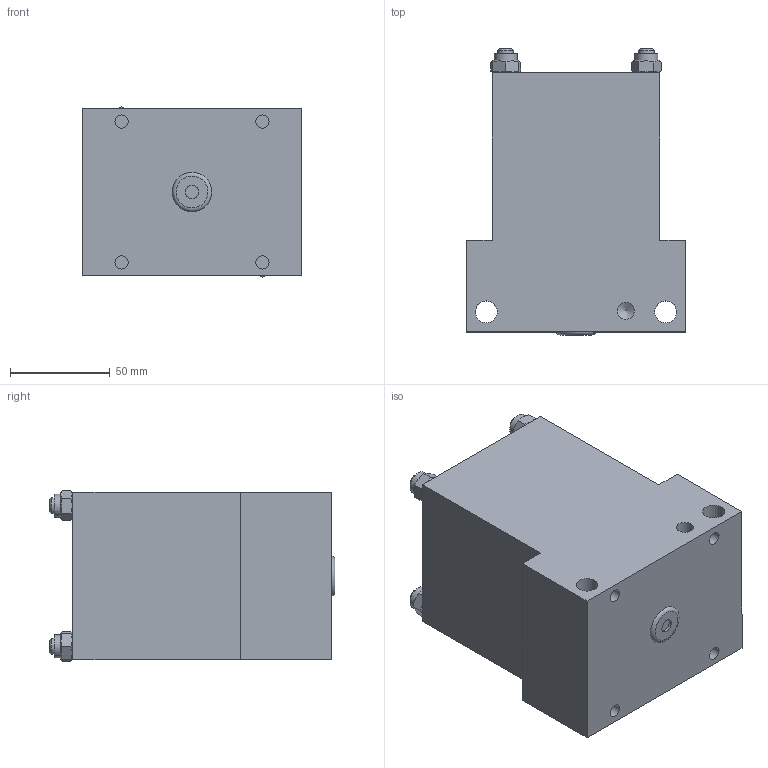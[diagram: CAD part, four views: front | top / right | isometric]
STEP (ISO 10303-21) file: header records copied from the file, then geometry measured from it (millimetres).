
FILE_DESCRIPTION((''),'2;1');
FILE_NAME('C:\VaultWork\Zeichnungen\Maßblätter\Multizylinder\M 75\M75-30\M01795-4-0 Maßblatt Multizylinder M75-3-20.stp','2013-06-19T16:43:01',('Sergeew'),(''),'Autodesk Inventor 2012','Autodesk Inventor 2012','');
FILE_SCHEMA(('AUTOMOTIVE_DESIGN { 1 0 10303 214 1 1 1 1 }'));
Length unit declared in the file: millimetre
Products named in the file (1): M01795-4-0 Maßblatt Multizylinder M75-3-20
Bounding box: 110 x 143.5 x 85.72 mm (x, y, z)
Volume: 998913.8 mm3; surface area: 78128.1 mm2
Topology: 1 solids, 5 shells, 108 faces, 235 edges, 156 vertices
Faces by surface type: plane 61, cylinder 25, cone 21, torus 1
Full cylindrical faces by diameter (mm): 6.647 x5, 8 x8, 8.566 x2, 9 x4, 11 x2, 11.6 x4
Entity records: 2577 total; most frequent: CARTESIAN_POINT 501, DIRECTION 402, ORIENTED_EDGE 328, EDGE_LOOP 178, AXIS2_PLACEMENT_3D 177, EDGE_CURVE 164, VERTEX_POINT 132, FACE_OUTER_BOUND 108
